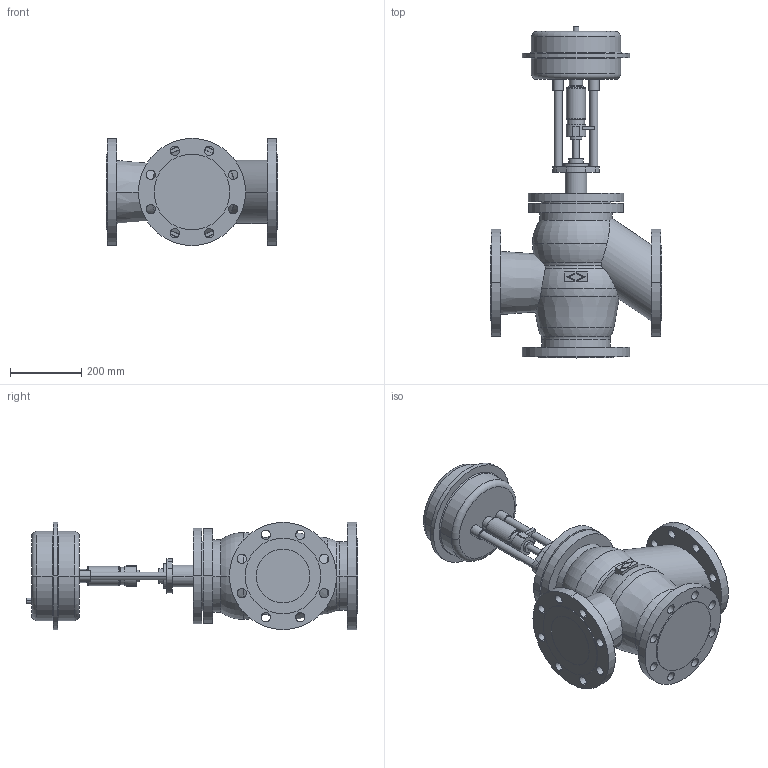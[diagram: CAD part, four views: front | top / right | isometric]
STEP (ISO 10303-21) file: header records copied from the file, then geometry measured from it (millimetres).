
FILE_DESCRIPTION(('OneSpaceDesigner STEP Export'),'2;1');
FILE_NAME('c000000413.stp','2006-09-19T 9:59:08',(''),(''),'OneSpace Designer STEP processor for AP214 (Solid Model)','OneSpace Designer 13.20A 18-Aug-2005 (C) CoCreate Software GmbH','');
FILE_SCHEMA(('AUTOMOTIVE_DESIGN { 1 0 10303 214 1 1 1 1 }'));
Length unit declared in the file: millimetre
Products named in the file (2): 1; 2
Bounding box: 480 x 929.6 x 300 mm (x, y, z)
Volume: 36703370.6 mm3; surface area: 1323291.9 mm2
Topology: 2 solids, 2 shells, 227 faces, 551 edges, 358 vertices
Faces by surface type: cylinder 114, plane 73, torus 32, cone 8
Entity records: 6056 total; most frequent: CARTESIAN_POINT 1200, ORIENTED_EDGE 1102, DIRECTION 860, EDGE_CURVE 551, VERTEX_POINT 358, AXIS2_PLACEMENT_3D 322, EDGE_LOOP 305, FACE_OUTER_BOUND 227
